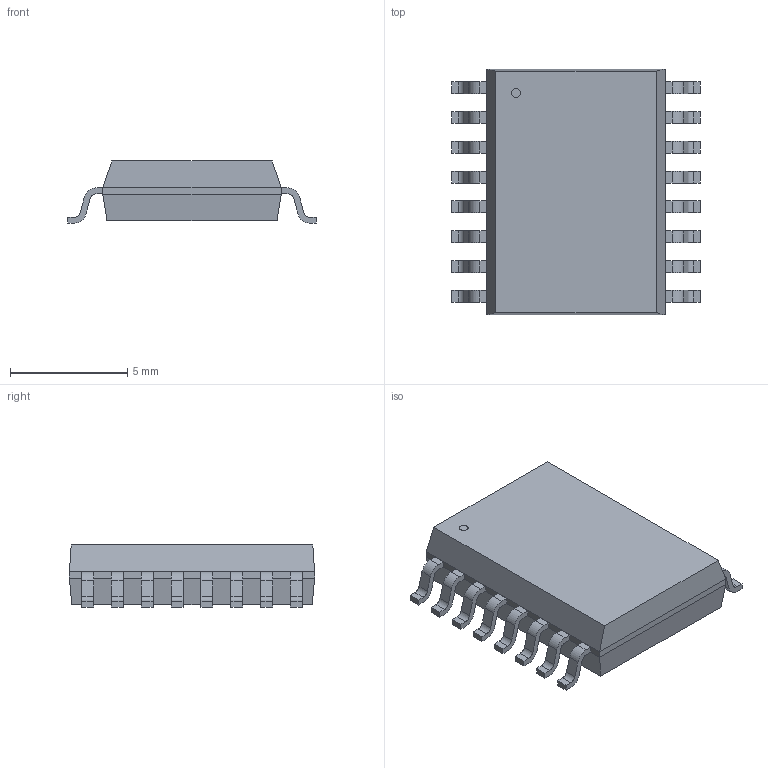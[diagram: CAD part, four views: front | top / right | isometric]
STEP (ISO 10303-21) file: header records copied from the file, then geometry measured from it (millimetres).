
FILE_DESCRIPTION(('STEP AP214'),'1');
FILE_NAME('SMD_16_10.35X7.5X2.5_RCP','2026-01-19T10:57:03',(''),(''),'','','');
FILE_SCHEMA(('AUTOMOTIVE_DESIGN'));
Length unit declared in the file: millimetre
Products named in the file (1): product
Bounding box: 10.59 x 10.44 x 2.64 mm (x, y, z)
Volume: 198.1 mm3; surface area: 296 mm2
Topology: 18 solids, 18 shells, 241 faces, 607 edges, 402 vertices
Faces by surface type: plane 176, cylinder 65
Full cylindrical faces by diameter (mm): 0.38 x1
Entity records: 7021 total; most frequent: DIRECTION 1222, ORIENTED_EDGE 1212, CARTESIAN_POINT 711, EDGE_CURVE 606, LINE 476, VECTOR 476, VERTEX_POINT 402, AXIS2_PLACEMENT_3D 373
